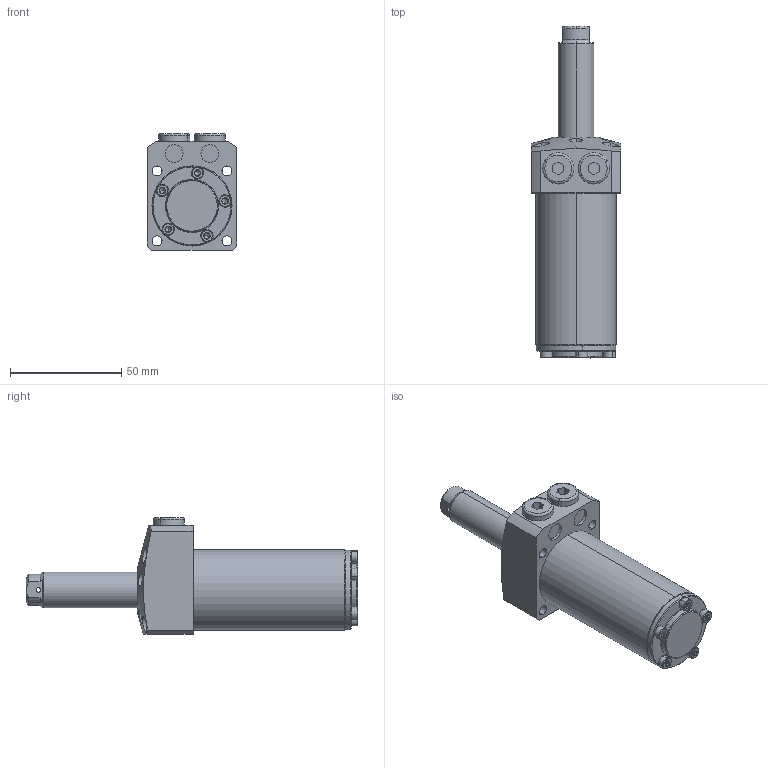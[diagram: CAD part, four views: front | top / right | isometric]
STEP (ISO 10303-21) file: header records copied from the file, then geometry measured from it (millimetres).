
FILE_DESCRIPTION (( 'STEP AP203' ), '1' );
FILE_NAME ('680360-CB-051.step', '2016-11-02T03:16:44', ( 'wxp' ), ( '' ), 'SwSTEP 2.0', 'SolidWorks 2011', '' );
FILE_SCHEMA (( 'CONFIG_CONTROL_DESIGN' ));
Length unit declared in the file: millimetre
Products named in the file (7): 680360-CB-051; 葩璃 LL036-15-5^680360-CB-051; 葩璃 LL036-51-3^680360-CB-051; 葩璃 LL036-15-4^680360-CB-051; 葩璃 LL036-15-3^680360-CB-051; 葩璃 LL036-CB-51-2^680360-CB-051; 葩璃 LL036-51-1^680360-CB-051
Assembly tree (15 placements, depth 2):
  680360-CB-051
    葩璃 LL036-15-4^680360-CB-051  x5
    葩璃 LL036-51-3^680360-CB-051  x5
    葩璃 LL036-51-1^680360-CB-051
    葩璃 LL036-15-5^680360-CB-051  x2
    葩璃 LL036-CB-51-2^680360-CB-051
    葩璃 LL036-15-3^680360-CB-051
Bounding box: 40 x 149 x 52.5 mm (x, y, z)
Volume: 118323.7 mm3; surface area: 30577.1 mm2
Topology: 15 solids, 15 shells, 486 faces, 928 edges, 494 vertices
Faces by surface type: plane 205, cone 144, cylinder 121, torus 16
Entity records: 7365 total; most frequent: CARTESIAN_POINT 1740, DIRECTION 1066, ORIENTED_EDGE 876, AXIS2_PLACEMENT_3D 446, EDGE_CURVE 438, VERTEX_POINT 262, EDGE_LOOP 258, CIRCLE 216
